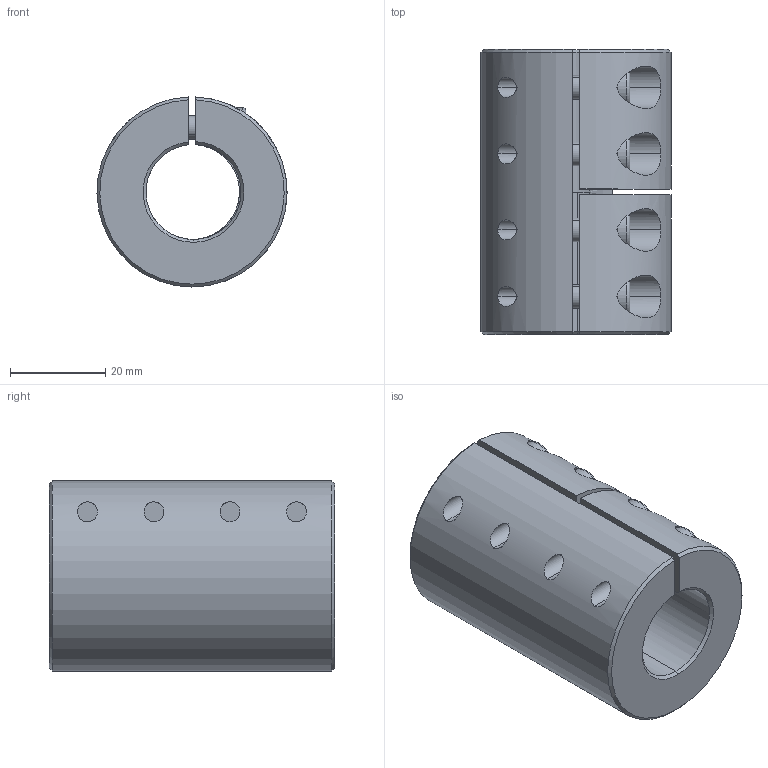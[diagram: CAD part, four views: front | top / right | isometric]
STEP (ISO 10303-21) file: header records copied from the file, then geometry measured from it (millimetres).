
FILE_DESCRIPTION (( 'STEP AP214' ), '1' );
FILE_NAME ('LL-B-D40L60-20-20½¨Ä£.STEP', '2022-07-22T01:05:42', ( '' ), ( '' ), 'SwSTEP 2.0', 'SolidWorks 2022', '' );
FILE_SCHEMA (( 'AUTOMOTIVE_DESIGN' ));
Length unit declared in the file: millimetre
Products named in the file (1): LL-B-D40L60-20-20膘耀
Bounding box: 40 x 60 x 39.99 mm (x, y, z)
Volume: 53672 mm3; surface area: 17453.7 mm2
Topology: 1 solids, 1 shells, 177 faces, 446 edges, 279 vertices
Faces by surface type: plane 85, cylinder 70, cone 14, torus 8
Entity records: 5827 total; most frequent: CARTESIAN_POINT 1479, DIRECTION 947, ORIENTED_EDGE 876, EDGE_CURVE 438, AXIS2_PLACEMENT_3D 371, VERTEX_POINT 279, EDGE_LOOP 209, VECTOR 205
